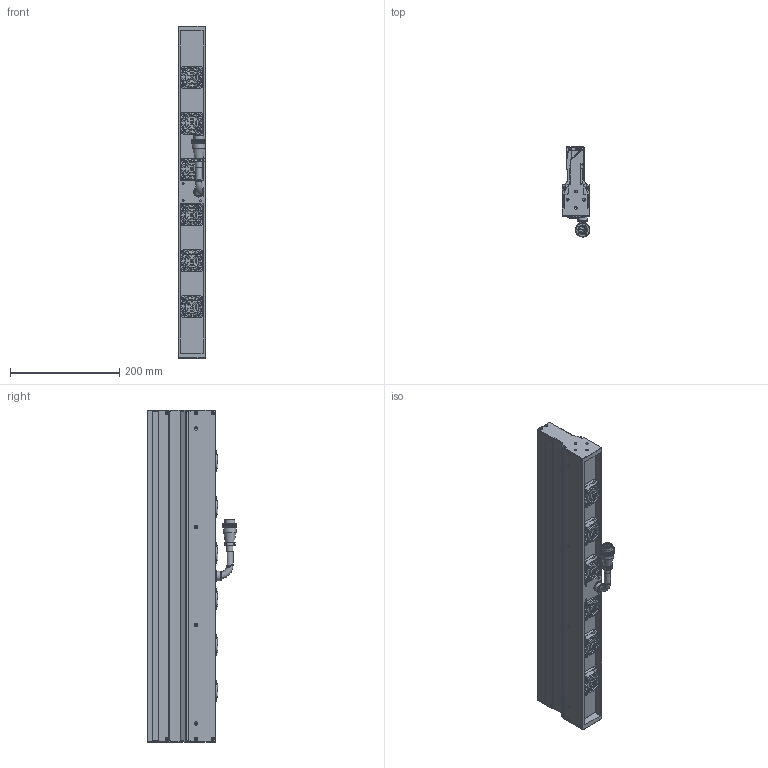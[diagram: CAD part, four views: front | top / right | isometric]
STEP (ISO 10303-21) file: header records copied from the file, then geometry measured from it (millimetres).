
FILE_DESCRIPTION (( 'STEP AP203' ), '1' );
FILE_NAME ('OPT-LSSC608-W-V3.1U尨砩芞.STEP', '2025-02-09T01:55:31', ( 'USER' ), ( '' ), 'SwSTEP 2.0', 'SolidWorks 2016', '' );
FILE_SCHEMA (( 'CONFIG_CONTROL_DESIGN' ));
Length unit declared in the file: millimetre
Products named in the file (2): OPT-LSSC608-W-V3.1U尨砩芞
Bounding box: 50.6 x 164.5 x 608 mm (x, y, z)
Volume: 2360326.3 mm3; surface area: 465856 mm2
Topology: 30 solids, 38 shells, 3157 faces, 8041 edges, 5097 vertices
Faces by surface type: bspline 1105, cylinder 942, plane 807, torus 234, cone 69
Full cylindrical faces by diameter (mm): 1 x2, 1.6 x24, 2 x6, 2.5 x28, 3 x4, 3.2 x28, 3.4 x26, 3.5 x4, 5 x8, 6.2 x24, 8 x1, 11.6 x1, 11.7 x3, 12 x1, 15 x1, 15.9 x1, 17.5 x1, 18 x1, 18.5 x1, 22.8 x1, 24 x1, 24.8 x6, 38 x6
Entity records: 116837 total; most frequent: CARTESIAN_POINT 53708, ORIENTED_EDGE 15102, DIRECTION 8776, EDGE_CURVE 7551, VERTEX_POINT 4986, B_SPLINE_CURVE_WITH_KNOTS 4361, EDGE_LOOP 3717, AXIS2_PLACEMENT_3D 3532
